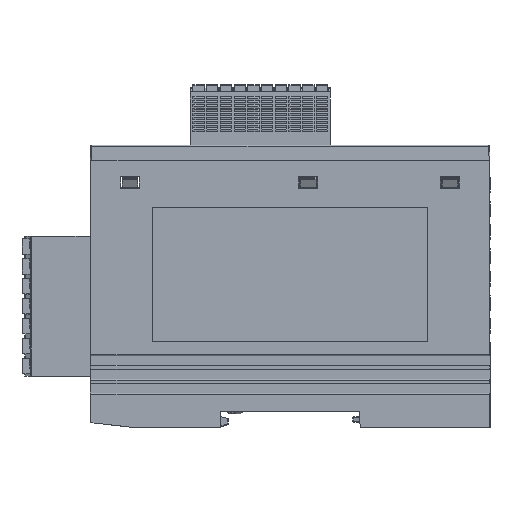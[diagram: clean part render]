
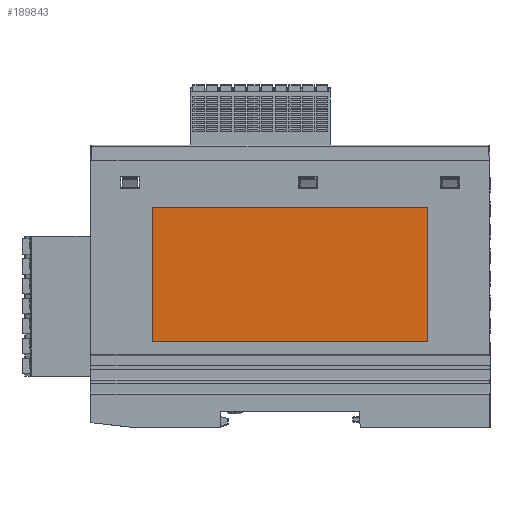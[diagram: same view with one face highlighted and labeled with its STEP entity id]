
A CAD part, left-side view. The second image highlights one B-rep face of the part: STEP entity #189843.
In plain terms, the highlighted planar face has unit normal (-1, 0, 0).
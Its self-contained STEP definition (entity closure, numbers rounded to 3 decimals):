
#68679=DIRECTION('',(0.,1.,0.));
#68680=VECTOR('',#68679,70.);
#68681=CARTESIAN_POINT('',(-12.3,-35.,-46.));
#68682=LINE('',#68681,#68680);
#68683=DIRECTION('',(0.,0.,1.));
#68684=VECTOR('',#68683,34.);
#68685=CARTESIAN_POINT('',(-12.3,35.,-46.));
#68686=LINE('',#68685,#68684);
#68687=DIRECTION('',(0.,-1.,0.));
#68688=VECTOR('',#68687,70.);
#68689=CARTESIAN_POINT('',(-12.3,35.,-12.));
#68690=LINE('',#68689,#68688);
#68691=DIRECTION('',(0.,0.,-1.));
#68692=VECTOR('',#68691,34.);
#68693=CARTESIAN_POINT('',(-12.3,-35.,-12.));
#68694=LINE('',#68693,#68692);
#71247=CARTESIAN_POINT('',(-12.3,35.,-46.));
#71248=VERTEX_POINT('',#71247);
#71249=CARTESIAN_POINT('',(-12.3,-35.,-46.));
#71250=VERTEX_POINT('',#71249);
#71251=CARTESIAN_POINT('',(-12.3,35.,-12.));
#71252=VERTEX_POINT('',#71251);
#71253=CARTESIAN_POINT('',(-12.3,-35.,-12.));
#71254=VERTEX_POINT('',#71253);
#189832=CARTESIAN_POINT('',(-12.3,0.,0.));
#189833=DIRECTION('',(-1.,0.,0.));
#189834=DIRECTION('',(0.,0.,1.));
#189835=AXIS2_PLACEMENT_3D('',#189832,#189833,#189834);
#189836=PLANE('',#189835);
#189837=ORIENTED_EDGE('',*,*,#189771,.T.);
#189838=ORIENTED_EDGE('',*,*,#189787,.T.);
#189839=ORIENTED_EDGE('',*,*,#189813,.T.);
#189840=ORIENTED_EDGE('',*,*,#189826,.T.);
#189841=EDGE_LOOP('',(#189837,#189838,#189839,#189840));
#189842=FACE_OUTER_BOUND('',#189841,.F.);
#189843=ADVANCED_FACE('',(#189842),#189836,.T.);
#189771=EDGE_CURVE('',#71250,#71248,#68682,.T.);
#189787=EDGE_CURVE('',#71248,#71252,#68686,.T.);
#189813=EDGE_CURVE('',#71252,#71254,#68690,.T.);
#189826=EDGE_CURVE('',#71254,#71250,#68694,.T.);
